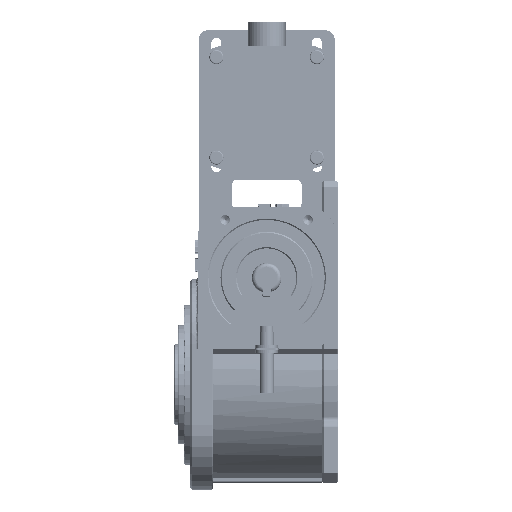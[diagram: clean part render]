
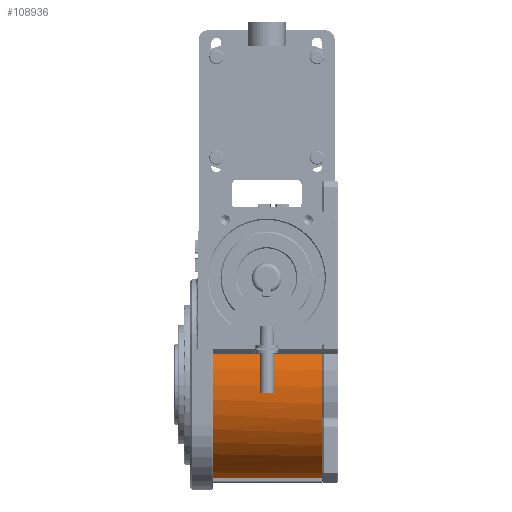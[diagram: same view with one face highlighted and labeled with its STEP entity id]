
A CAD part, left-side view. The second image highlights one B-rep face of the part: STEP entity #108936.
In plain terms, the highlighted cylindrical face has radius 83 mm (diameter 166 mm), a partial arc.
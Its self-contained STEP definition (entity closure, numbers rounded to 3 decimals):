
#585 = DIRECTION ( 'NONE',  ( 0., -1., 0. ) ) ;
#1841 = AXIS2_PLACEMENT_3D ( 'NONE', #54048, #134002, #65501 ) ;
#4142 = CARTESIAN_POINT ( 'NONE',  ( -25., 105., -79.145 ) ) ;
#6279 = CARTESIAN_POINT ( 'NONE',  ( 0., 13., 0. ) ) ;
#6355 = CIRCLE ( 'NONE', #1841, 83. ) ;
#17808 = DIRECTION ( 'NONE',  ( 0., 0., -1. ) ) ;
#17983 = EDGE_CURVE ( 'NONE', #44319, #98216, #6355, .T. ) ;
#18112 = VERTEX_POINT ( 'NONE', #91995 ) ;
#19783 = VERTEX_POINT ( 'NONE', #113272 ) ;
#25715 = CARTESIAN_POINT ( 'NONE',  ( -78.866, 105., 25.866 ) ) ;
#25827 = CARTESIAN_POINT ( 'NONE',  ( -78.866, 105., 25.866 ) ) ;
#30043 = EDGE_CURVE ( 'NONE', #18112, #98216, #134393, .T. ) ;
#34247 = EDGE_LOOP ( 'NONE', ( #37435, #136456, #61768, #87119, #135411 ) ) ;
#34398 = CARTESIAN_POINT ( 'NONE',  ( -25., 105., -79.145 ) ) ;
#37296 = DIRECTION ( 'NONE',  ( 0., 1., 0. ) ) ;
#37435 = ORIENTED_EDGE ( 'NONE', *, *, #89975, .F. ) ;
#44319 = VERTEX_POINT ( 'NONE', #4142 ) ;
#54048 = CARTESIAN_POINT ( 'NONE',  ( 0., 105., 0. ) ) ;
#56558 = DIRECTION ( 'NONE',  ( 0., 0., -1. ) ) ;
#57465 = VERTEX_POINT ( 'NONE', #123473 ) ;
#60060 = CIRCLE ( 'NONE', #75003, 83. ) ;
#61768 = ORIENTED_EDGE ( 'NONE', *, *, #17983, .F. ) ;
#65501 = DIRECTION ( 'NONE',  ( 0., 0., -1. ) ) ;
#68983 = CARTESIAN_POINT ( 'NONE',  ( 0., 13., 0. ) ) ;
#69301 = DIRECTION ( 'NONE',  ( 0., -1., 0. ) ) ;
#69543 = EDGE_CURVE ( 'NONE', #44319, #19783, #90542, .T. ) ;
#75003 = AXIS2_PLACEMENT_3D ( 'NONE', #6279, #86244, #17808 ) ;
#80484 = DIRECTION ( 'NONE',  ( 0., 0., -1. ) ) ;
#83390 = CIRCLE ( 'NONE', #139303, 83. ) ;
#86244 = DIRECTION ( 'NONE',  ( 0., -1., 0. ) ) ;
#87119 = ORIENTED_EDGE ( 'NONE', *, *, #69543, .T. ) ;
#89975 = EDGE_CURVE ( 'NONE', #18112, #57465, #60060, .T. ) ;
#90542 = LINE ( 'NONE', #34398, #117300 ) ;
#91995 = CARTESIAN_POINT ( 'NONE',  ( -78.866, 13., 25.866 ) ) ;
#98216 = VERTEX_POINT ( 'NONE', #25715 ) ;
#100429 = VECTOR ( 'NONE', #37296, 1000. ) ;
#106805 = EDGE_CURVE ( 'NONE', #57465, #19783, #83390, .T. ) ;
#108936 = ADVANCED_FACE ( 'NONE', ( #117270 ), #144104, .T. ) ;
#113272 = CARTESIAN_POINT ( 'NONE',  ( -25., 13., -79.145 ) ) ;
#117270 = FACE_OUTER_BOUND ( 'NONE', #34247, .T. ) ;
#117300 = VECTOR ( 'NONE', #69301, 1000. ) ;
#117428 = AXIS2_PLACEMENT_3D ( 'NONE', #136498, #148009, #56558 ) ;
#123473 = CARTESIAN_POINT ( 'NONE',  ( -77.457, 13., -29.823 ) ) ;
#134002 = DIRECTION ( 'NONE',  ( 0., 1., 0. ) ) ;
#134393 = LINE ( 'NONE', #25827, #100429 ) ;
#135411 = ORIENTED_EDGE ( 'NONE', *, *, #106805, .F. ) ;
#136456 = ORIENTED_EDGE ( 'NONE', *, *, #30043, .T. ) ;
#136498 = CARTESIAN_POINT ( 'NONE',  ( 0., 105., 0. ) ) ;
#139303 = AXIS2_PLACEMENT_3D ( 'NONE', #68983, #585, #80484 ) ;
#144104 = CYLINDRICAL_SURFACE ( 'NONE', #117428, 83. ) ;
#148009 = DIRECTION ( 'NONE',  ( 0., -1., 0. ) ) ;
